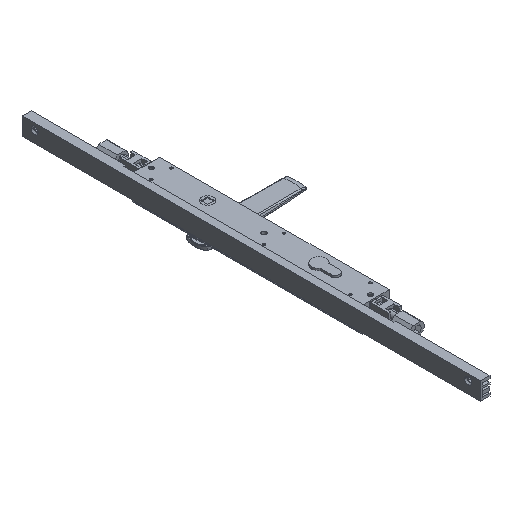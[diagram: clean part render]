
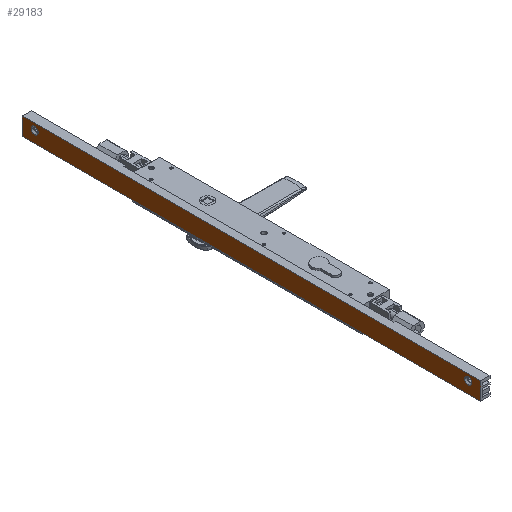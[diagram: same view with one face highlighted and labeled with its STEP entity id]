
A CAD part, isometric view. The second image highlights one B-rep face of the part: STEP entity #29183.
In plain terms, the highlighted planar face has unit normal (-1, 0, 0) as drawn and (0, 1, 0) by its records, which use the part's own axes.
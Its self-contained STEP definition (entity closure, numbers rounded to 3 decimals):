
#145 = VERTEX_POINT ( 'NONE', #6249 ) ;
#506 = VERTEX_POINT ( 'NONE', #26410 ) ;
#632 = CARTESIAN_POINT ( 'NONE',  ( 20.8, 12.4, 0. ) ) ;
#851 = DIRECTION ( 'NONE',  ( 0., 0., -1. ) ) ;
#1160 = CARTESIAN_POINT ( 'NONE',  ( 19.3, 12.4, 544. ) ) ;
#1468 = CARTESIAN_POINT ( 'NONE',  ( 20.8, 12.4, 544. ) ) ;
#2610 = EDGE_CURVE ( 'NONE', #9212, #29016, #18309, .T. ) ;
#2959 = DIRECTION ( 'NONE',  ( 0., 1., 0. ) ) ;
#3187 = ORIENTED_EDGE ( 'NONE', *, *, #17234, .T. ) ;
#3220 = VERTEX_POINT ( 'NONE', #7556 ) ;
#3386 = DIRECTION ( 'NONE',  ( 0., 1., 0. ) ) ;
#3445 = DIRECTION ( 'NONE',  ( -1., 0., 0. ) ) ;
#3834 = AXIS2_PLACEMENT_3D ( 'NONE', #1468, #16883, #27168 ) ;
#3983 = FACE_BOUND ( 'NONE', #19940, .T. ) ;
#4101 = CARTESIAN_POINT ( 'NONE',  ( 11.8, 12.4, 15. ) ) ;
#5625 = CARTESIAN_POINT ( 'NONE',  ( 19.3, 12.4, 544. ) ) ;
#5902 = CIRCLE ( 'NONE', #24690, 4.216 ) ;
#6249 = CARTESIAN_POINT ( 'NONE',  ( 11.8, 12.4, 10.784 ) ) ;
#6574 = VERTEX_POINT ( 'NONE', #5625 ) ;
#6630 = EDGE_LOOP ( 'NONE', ( #10701, #21787 ) ) ;
#7254 = VERTEX_POINT ( 'NONE', #22902 ) ;
#7300 = CIRCLE ( 'NONE', #9986, 4.216 ) ;
#7556 = CARTESIAN_POINT ( 'NONE',  ( 19.3, 12.4, 0. ) ) ;
#8100 = VECTOR ( 'NONE', #29612, 1000. ) ;
#8314 = CARTESIAN_POINT ( 'NONE',  ( 11.8, 12.4, 529. ) ) ;
#8947 = LINE ( 'NONE', #26935, #8100 ) ;
#9165 = EDGE_LOOP ( 'NONE', ( #13411, #3187, #10826, #10329 ) ) ;
#9212 = VERTEX_POINT ( 'NONE', #29780 ) ;
#9986 = AXIS2_PLACEMENT_3D ( 'NONE', #26419, #3386, #13633 ) ;
#10329 = ORIENTED_EDGE ( 'NONE', *, *, #28221, .F. ) ;
#10345 = DIRECTION ( 'NONE',  ( 0., 0., -1. ) ) ;
#10701 = ORIENTED_EDGE ( 'NONE', *, *, #18076, .F. ) ;
#10826 = ORIENTED_EDGE ( 'NONE', *, *, #31412, .T. ) ;
#11458 = EDGE_CURVE ( 'NONE', #29016, #9212, #12171, .T. ) ;
#11645 = AXIS2_PLACEMENT_3D ( 'NONE', #8314, #2959, #23777 ) ;
#12171 = CIRCLE ( 'NONE', #11645, 4.216 ) ;
#12177 = FACE_BOUND ( 'NONE', #6630, .T. ) ;
#12187 = DIRECTION ( 'NONE',  ( 0., 0., 1. ) ) ;
#13411 = ORIENTED_EDGE ( 'NONE', *, *, #18386, .F. ) ;
#13590 = LINE ( 'NONE', #1160, #17541 ) ;
#13633 = DIRECTION ( 'NONE',  ( 0., 0., 1. ) ) ;
#14237 = FACE_OUTER_BOUND ( 'NONE', #9165, .T. ) ;
#15103 = ORIENTED_EDGE ( 'NONE', *, *, #11458, .F. ) ;
#15765 = EDGE_CURVE ( 'NONE', #145, #506, #7300, .T. ) ;
#16580 = CARTESIAN_POINT ( 'NONE',  ( -1.7, 12.4, 544. ) ) ;
#16883 = DIRECTION ( 'NONE',  ( 0., -1., 0. ) ) ;
#17234 = EDGE_CURVE ( 'NONE', #6574, #3220, #13590, .T. ) ;
#17541 = VECTOR ( 'NONE', #851, 1000. ) ;
#18059 = LINE ( 'NONE', #632, #32826 ) ;
#18076 = EDGE_CURVE ( 'NONE', #506, #145, #5902, .T. ) ;
#18309 = CIRCLE ( 'NONE', #29588, 4.216 ) ;
#18386 = EDGE_CURVE ( 'NONE', #6574, #29027, #8947, .T. ) ;
#19272 = CARTESIAN_POINT ( 'NONE',  ( 11.8, 12.4, 524.784 ) ) ;
#19399 = DIRECTION ( 'NONE',  ( 0., 0., 1. ) ) ;
#19784 = DIRECTION ( 'NONE',  ( 0., 1., 0. ) ) ;
#19940 = EDGE_LOOP ( 'NONE', ( #29669, #15103 ) ) ;
#21443 = DIRECTION ( 'NONE',  ( 0., 1., 0. ) ) ;
#21787 = ORIENTED_EDGE ( 'NONE', *, *, #15765, .F. ) ;
#22902 = CARTESIAN_POINT ( 'NONE',  ( -1.7, 12.4, 0. ) ) ;
#23126 = LINE ( 'NONE', #25826, #26105 ) ;
#23777 = DIRECTION ( 'NONE',  ( 0., 0., 1. ) ) ;
#24498 = PLANE ( 'NONE',  #3834 ) ;
#24690 = AXIS2_PLACEMENT_3D ( 'NONE', #4101, #21443, #19399 ) ;
#25506 = CARTESIAN_POINT ( 'NONE',  ( 11.8, 12.4, 529. ) ) ;
#25826 = CARTESIAN_POINT ( 'NONE',  ( -1.7, 12.4, 544. ) ) ;
#26105 = VECTOR ( 'NONE', #10345, 1000. ) ;
#26410 = CARTESIAN_POINT ( 'NONE',  ( 11.8, 12.4, 19.216 ) ) ;
#26419 = CARTESIAN_POINT ( 'NONE',  ( 11.8, 12.4, 15. ) ) ;
#26935 = CARTESIAN_POINT ( 'NONE',  ( 20.8, 12.4, 544. ) ) ;
#27168 = DIRECTION ( 'NONE',  ( 1., 0., 0. ) ) ;
#28221 = EDGE_CURVE ( 'NONE', #29027, #7254, #23126, .T. ) ;
#29016 = VERTEX_POINT ( 'NONE', #19272 ) ;
#29027 = VERTEX_POINT ( 'NONE', #16580 ) ;
#29183 = ADVANCED_FACE ( 'NONE', ( #12177, #3983, #14237 ), #24498, .F. ) ;
#29588 = AXIS2_PLACEMENT_3D ( 'NONE', #25506, #19784, #12187 ) ;
#29612 = DIRECTION ( 'NONE',  ( -1., 0., 0. ) ) ;
#29669 = ORIENTED_EDGE ( 'NONE', *, *, #2610, .F. ) ;
#29780 = CARTESIAN_POINT ( 'NONE',  ( 11.8, 12.4, 533.216 ) ) ;
#31412 = EDGE_CURVE ( 'NONE', #3220, #7254, #18059, .T. ) ;
#32826 = VECTOR ( 'NONE', #3445, 1000. ) ;
